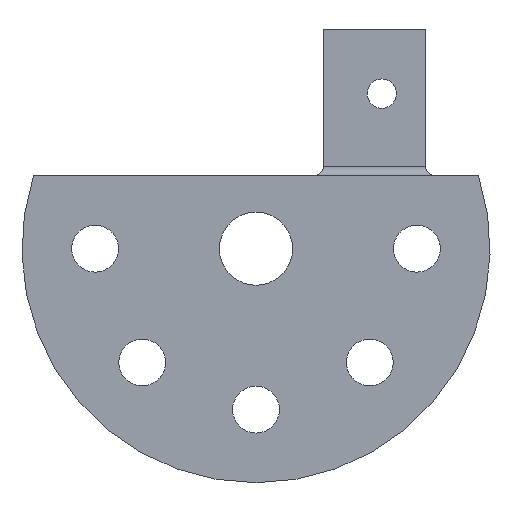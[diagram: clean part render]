
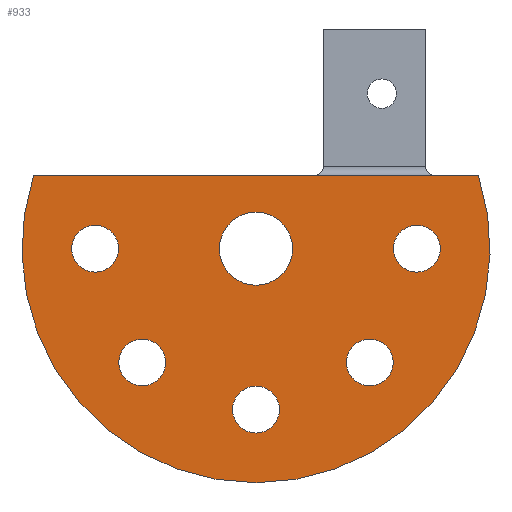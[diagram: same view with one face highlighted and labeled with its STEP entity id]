
A CAD part, front view. The second image highlights one B-rep face of the part: STEP entity #933.
In plain terms, the highlighted planar face has unit normal (0, -1, 0).
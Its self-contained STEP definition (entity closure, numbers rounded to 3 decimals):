
#32 = CARTESIAN_POINT ( 'NONE',  ( 0., -40., -55. ) ) ;
#48 = CARTESIAN_POINT ( 'NONE',  ( 55., -40., -8. ) ) ;
#51 = CARTESIAN_POINT ( 'NONE',  ( 55., -40., 8. ) ) ;
#57 = DIRECTION ( 'NONE',  ( 0., 0., -1. ) ) ;
#65 = ORIENTED_EDGE ( 'NONE', *, *, #600, .F. ) ;
#75 = ORIENTED_EDGE ( 'NONE', *, *, #1044, .F. ) ;
#82 = DIRECTION ( 'NONE',  ( 0., -1., 0. ) ) ;
#97 = CARTESIAN_POINT ( 'NONE',  ( 0., -40., 0. ) ) ;
#108 = CIRCLE ( 'NONE', #834, 12.5 ) ;
#138 = EDGE_LOOP ( 'NONE', ( #224, #75 ) ) ;
#148 = DIRECTION ( 'NONE',  ( 0., 0., -1. ) ) ;
#161 = DIRECTION ( 'NONE',  ( 0., 1., 0. ) ) ;
#178 = FACE_BOUND ( 'NONE', #968, .T. ) ;
#179 = EDGE_LOOP ( 'NONE', ( #1297, #65 ) ) ;
#184 = EDGE_CURVE ( 'NONE', #602, #1211, #697, .T. ) ;
#193 = VERTEX_POINT ( 'NONE', #553 ) ;
#196 = DIRECTION ( 'NONE',  ( 0., -1., 0. ) ) ;
#200 = AXIS2_PLACEMENT_3D ( 'NONE', #369, #684, #57 ) ;
#206 = CIRCLE ( 'NONE', #1350, 8. ) ;
#209 = DIRECTION ( 'NONE',  ( 0., 0., -1. ) ) ;
#224 = ORIENTED_EDGE ( 'NONE', *, *, #995, .F. ) ;
#230 = CARTESIAN_POINT ( 'NONE',  ( 38.891, -40., -30.891 ) ) ;
#236 = CARTESIAN_POINT ( 'NONE',  ( -55., -40., 0. ) ) ;
#241 = CARTESIAN_POINT ( 'NONE',  ( 75.993, -40., 25. ) ) ;
#269 = AXIS2_PLACEMENT_3D ( 'NONE', #408, #1141, #513 ) ;
#274 = CARTESIAN_POINT ( 'NONE',  ( -38.891, -40., -46.891 ) ) ;
#283 = CARTESIAN_POINT ( 'NONE',  ( -75.993, -40., 25. ) ) ;
#308 = EDGE_CURVE ( 'NONE', #1205, #1190, #206, .T. ) ;
#309 = CARTESIAN_POINT ( 'NONE',  ( -75.993, -40., 25. ) ) ;
#322 = VERTEX_POINT ( 'NONE', #48 ) ;
#326 = CARTESIAN_POINT ( 'NONE',  ( 55., -40., 0. ) ) ;
#337 = VERTEX_POINT ( 'NONE', #580 ) ;
#341 = DIRECTION ( 'NONE',  ( 0., 0., -1. ) ) ;
#343 = DIRECTION ( 'NONE',  ( 0., -1., 0. ) ) ;
#347 = EDGE_CURVE ( 'NONE', #1021, #941, #972, .T. ) ;
#369 = CARTESIAN_POINT ( 'NONE',  ( 0., -40., 0. ) ) ;
#394 = DIRECTION ( 'NONE',  ( -1., 0., 0. ) ) ;
#408 = CARTESIAN_POINT ( 'NONE',  ( -38.891, -40., -38.891 ) ) ;
#416 = ORIENTED_EDGE ( 'NONE', *, *, #627, .F. ) ;
#419 = CIRCLE ( 'NONE', #269, 8. ) ;
#426 = EDGE_CURVE ( 'NONE', #755, #503, #1248, .T. ) ;
#427 = DIRECTION ( 'NONE',  ( 0., 0., -1. ) ) ;
#441 = VERTEX_POINT ( 'NONE', #1128 ) ;
#444 = EDGE_CURVE ( 'NONE', #922, #322, #1294, .T. ) ;
#454 = FACE_BOUND ( 'NONE', #1310, .T. ) ;
#469 = CARTESIAN_POINT ( 'NONE',  ( 38.891, -40., -38.891 ) ) ;
#479 = DIRECTION ( 'NONE',  ( 0., -1., 0. ) ) ;
#485 = AXIS2_PLACEMENT_3D ( 'NONE', #822, #196, #930 ) ;
#492 = CIRCLE ( 'NONE', #1340, 80. ) ;
#503 = VERTEX_POINT ( 'NONE', #309 ) ;
#513 = DIRECTION ( 'NONE',  ( 0., 0., -1. ) ) ;
#520 = CARTESIAN_POINT ( 'NONE',  ( 0., -40., -55. ) ) ;
#546 = DIRECTION ( 'NONE',  ( 0., -1., 0. ) ) ;
#551 = CARTESIAN_POINT ( 'NONE',  ( 0., -40., 12.5 ) ) ;
#553 = CARTESIAN_POINT ( 'NONE',  ( 0., -40., -12.5 ) ) ;
#576 = DIRECTION ( 'NONE',  ( 0., 0., -1. ) ) ;
#580 = CARTESIAN_POINT ( 'NONE',  ( 0., -40., -63. ) ) ;
#600 = EDGE_CURVE ( 'NONE', #322, #922, #955, .T. ) ;
#602 = VERTEX_POINT ( 'NONE', #1258 ) ;
#604 = ORIENTED_EDGE ( 'NONE', *, *, #730, .F. ) ;
#617 = ORIENTED_EDGE ( 'NONE', *, *, #1026, .F. ) ;
#622 = DIRECTION ( 'NONE',  ( 0., 0., -1. ) ) ;
#627 = EDGE_CURVE ( 'NONE', #1211, #602, #1323, .T. ) ;
#637 = AXIS2_PLACEMENT_3D ( 'NONE', #702, #82, #813 ) ;
#645 = EDGE_LOOP ( 'NONE', ( #416, #1109 ) ) ;
#650 = AXIS2_PLACEMENT_3D ( 'NONE', #967, #343, #1077 ) ;
#683 = VERTEX_POINT ( 'NONE', #551 ) ;
#684 = DIRECTION ( 'NONE',  ( 0., -1., 0. ) ) ;
#689 = AXIS2_PLACEMENT_3D ( 'NONE', #520, #1244, #622 ) ;
#697 = CIRCLE ( 'NONE', #1322, 8. ) ;
#702 = CARTESIAN_POINT ( 'NONE',  ( 55., -40., 0. ) ) ;
#708 = EDGE_LOOP ( 'NONE', ( #877, #1283 ) ) ;
#713 = AXIS2_PLACEMENT_3D ( 'NONE', #32, #768, #148 ) ;
#723 = FACE_BOUND ( 'NONE', #645, .T. ) ;
#730 = EDGE_CURVE ( 'NONE', #1190, #1205, #1121, .T. ) ;
#740 = ORIENTED_EDGE ( 'NONE', *, *, #308, .F. ) ;
#755 = VERTEX_POINT ( 'NONE', #241 ) ;
#767 = AXIS2_PLACEMENT_3D ( 'NONE', #1099, #479, #1210 ) ;
#768 = DIRECTION ( 'NONE',  ( 0., -1., 0. ) ) ;
#772 = VECTOR ( 'NONE', #394, 1000. ) ;
#783 = CARTESIAN_POINT ( 'NONE',  ( 0., -40., 0. ) ) ;
#792 = EDGE_CURVE ( 'NONE', #441, #337, #1151, .T. ) ;
#813 = DIRECTION ( 'NONE',  ( 0., 0., -1. ) ) ;
#822 = CARTESIAN_POINT ( 'NONE',  ( 0., -40., 0. ) ) ;
#829 = CARTESIAN_POINT ( 'NONE',  ( -38.891, -40., -30.891 ) ) ;
#834 = AXIS2_PLACEMENT_3D ( 'NONE', #97, #835, #209 ) ;
#835 = DIRECTION ( 'NONE',  ( 0., -1., 0. ) ) ;
#846 = EDGE_LOOP ( 'NONE', ( #1324, #859 ) ) ;
#859 = ORIENTED_EDGE ( 'NONE', *, *, #1005, .F. ) ;
#877 = ORIENTED_EDGE ( 'NONE', *, *, #426, .T. ) ;
#891 = DIRECTION ( 'NONE',  ( 0., 0., 1. ) ) ;
#905 = EDGE_CURVE ( 'NONE', #755, #503, #492, .T. ) ;
#922 = VERTEX_POINT ( 'NONE', #51 ) ;
#930 = DIRECTION ( 'NONE',  ( 0., 0., -1. ) ) ;
#933 = ADVANCED_FACE ( 'NONE', ( #1009, #178, #454, #1187, #1250, #723, #973 ), #1304, .T. ) ;
#941 = VERTEX_POINT ( 'NONE', #274 ) ;
#944 = CIRCLE ( 'NONE', #485, 12.5 ) ;
#955 = CIRCLE ( 'NONE', #1275, 8. ) ;
#964 = DIRECTION ( 'NONE',  ( 0., -1., 0. ) ) ;
#965 = CARTESIAN_POINT ( 'NONE',  ( -55., -40., 8. ) ) ;
#967 = CARTESIAN_POINT ( 'NONE',  ( 38.891, -40., -38.891 ) ) ;
#968 = EDGE_LOOP ( 'NONE', ( #985, #617 ) ) ;
#972 = CIRCLE ( 'NONE', #767, 8. ) ;
#973 = FACE_BOUND ( 'NONE', #138, .T. ) ;
#985 = ORIENTED_EDGE ( 'NONE', *, *, #792, .F. ) ;
#995 = EDGE_CURVE ( 'NONE', #683, #193, #944, .T. ) ;
#1005 = EDGE_CURVE ( 'NONE', #941, #1021, #419, .T. ) ;
#1009 = FACE_OUTER_BOUND ( 'NONE', #708, .T. ) ;
#1021 = VERTEX_POINT ( 'NONE', #829 ) ;
#1026 = EDGE_CURVE ( 'NONE', #337, #441, #1155, .T. ) ;
#1044 = EDGE_CURVE ( 'NONE', #193, #683, #108, .T. ) ;
#1049 = DIRECTION ( 'NONE',  ( 0., -1., 0. ) ) ;
#1062 = CARTESIAN_POINT ( 'NONE',  ( 38.891, -40., -46.891 ) ) ;
#1077 = DIRECTION ( 'NONE',  ( 0., 0., -1. ) ) ;
#1099 = CARTESIAN_POINT ( 'NONE',  ( -38.891, -40., -38.891 ) ) ;
#1109 = ORIENTED_EDGE ( 'NONE', *, *, #184, .F. ) ;
#1121 = CIRCLE ( 'NONE', #650, 8. ) ;
#1128 = CARTESIAN_POINT ( 'NONE',  ( 0., -40., -47. ) ) ;
#1141 = DIRECTION ( 'NONE',  ( 0., -1., 0. ) ) ;
#1151 = CIRCLE ( 'NONE', #713, 8. ) ;
#1155 = CIRCLE ( 'NONE', #689, 8. ) ;
#1169 = CARTESIAN_POINT ( 'NONE',  ( -55., -40., 0. ) ) ;
#1187 = FACE_BOUND ( 'NONE', #179, .T. ) ;
#1190 = VERTEX_POINT ( 'NONE', #230 ) ;
#1198 = DIRECTION ( 'NONE',  ( 0., -1., 0. ) ) ;
#1205 = VERTEX_POINT ( 'NONE', #1062 ) ;
#1210 = DIRECTION ( 'NONE',  ( 0., 0., -1. ) ) ;
#1211 = VERTEX_POINT ( 'NONE', #965 ) ;
#1244 = DIRECTION ( 'NONE',  ( 0., -1., 0. ) ) ;
#1248 = LINE ( 'NONE', #283, #772 ) ;
#1250 = FACE_BOUND ( 'NONE', #846, .T. ) ;
#1258 = CARTESIAN_POINT ( 'NONE',  ( -55., -40., -8. ) ) ;
#1274 = DIRECTION ( 'NONE',  ( 0., 0., -1. ) ) ;
#1275 = AXIS2_PLACEMENT_3D ( 'NONE', #326, #1049, #427 ) ;
#1283 = ORIENTED_EDGE ( 'NONE', *, *, #905, .F. ) ;
#1294 = CIRCLE ( 'NONE', #637, 8. ) ;
#1297 = ORIENTED_EDGE ( 'NONE', *, *, #444, .F. ) ;
#1301 = AXIS2_PLACEMENT_3D ( 'NONE', #1169, #546, #1274 ) ;
#1304 = PLANE ( 'NONE',  #200 ) ;
#1310 = EDGE_LOOP ( 'NONE', ( #604, #740 ) ) ;
#1322 = AXIS2_PLACEMENT_3D ( 'NONE', #236, #964, #341 ) ;
#1323 = CIRCLE ( 'NONE', #1301, 8. ) ;
#1324 = ORIENTED_EDGE ( 'NONE', *, *, #347, .F. ) ;
#1340 = AXIS2_PLACEMENT_3D ( 'NONE', #783, #161, #891 ) ;
#1350 = AXIS2_PLACEMENT_3D ( 'NONE', #469, #1198, #576 ) ;
